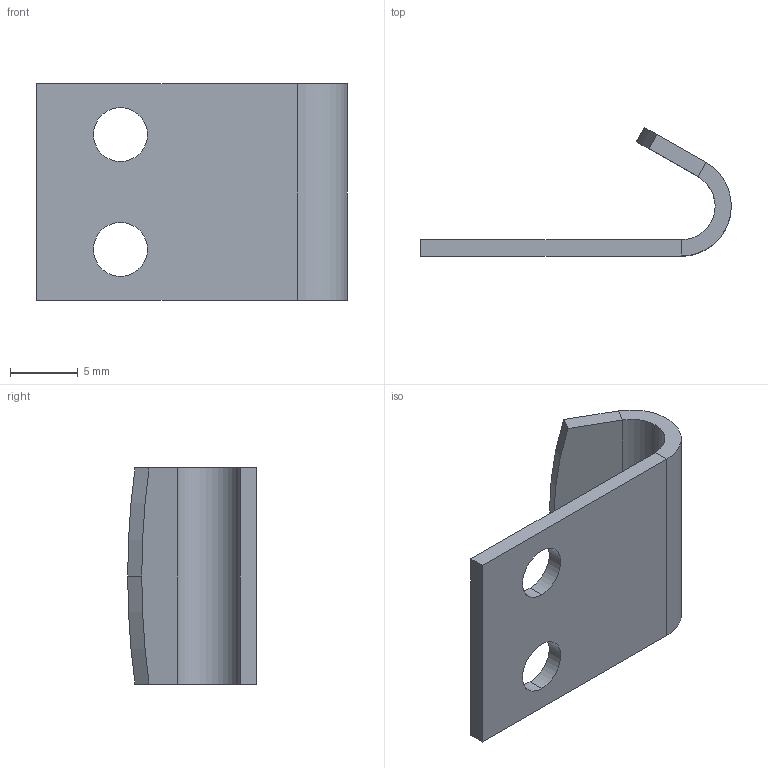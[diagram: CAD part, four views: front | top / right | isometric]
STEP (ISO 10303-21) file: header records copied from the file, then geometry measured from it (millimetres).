
FILE_DESCRIPTION (( 'STEP AP203' ), '1' );
FILE_NAME ('3.ST207.001.01.STEP', '2023-03-28T13:05:21', ( '' ), ( '' ), 'SwSTEP 2.0', 'SolidWorks 2021', '' );
FILE_SCHEMA (( 'CONFIG_CONTROL_DESIGN' ));
Length unit declared in the file: millimetre
Products named in the file (1): 3.ST207.001.01
Bounding box: 23 x 9.52 x 16 mm (x, y, z)
Volume: 590.7 mm3; surface area: 1129.2 mm2
Topology: 1 solids, 1 shells, 19 faces, 43 edges, 26 vertices
Faces by surface type: plane 11, cylinder 8
Entity records: 614 total; most frequent: DIRECTION 99, CARTESIAN_POINT 89, ORIENTED_EDGE 86, EDGE_CURVE 43, AXIS2_PLACEMENT_3D 36, VECTOR 27, LINE 27, VERTEX_POINT 26
